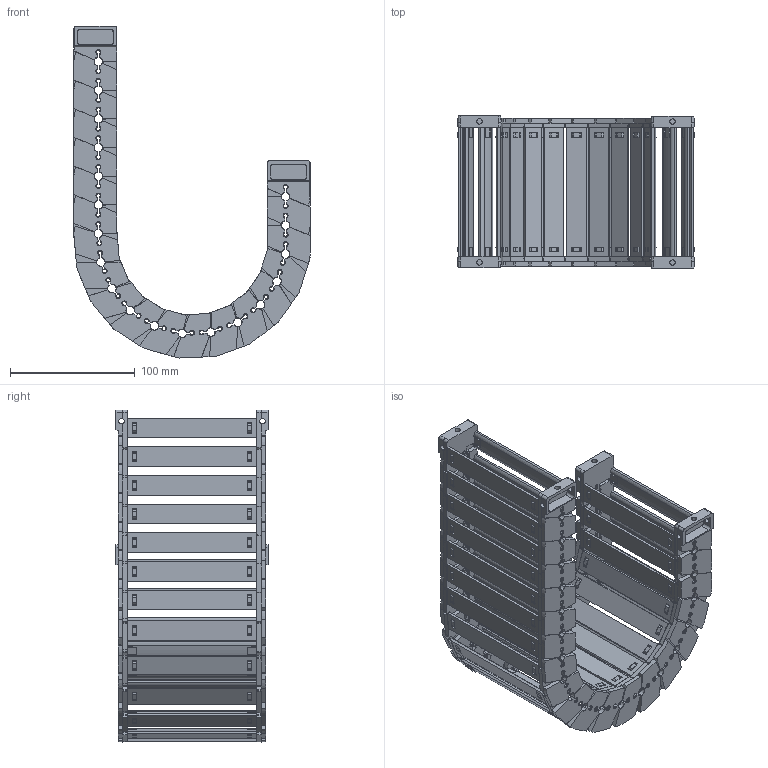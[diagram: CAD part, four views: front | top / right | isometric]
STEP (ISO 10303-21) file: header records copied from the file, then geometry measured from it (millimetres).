
FILE_DESCRIPTION((''),'2;1');
FILE_NAME('JY-28X103-R75_ASM','2026-03-26T08:24:44',('admin'),(''),'CREO PARAMETRIC BY PTC INC, 2021023','CREO PARAMETRIC BY PTC INC, 2021023','');
FILE_SCHEMA(('CONFIG_CONTROL_DESIGN'));
Length unit declared in the file: millimetre
Products named in the file (11): 28XL-L; 25-35XL-YP; 28XL-R; ASM0001_ASM; 28-LTT-A-L; 28-LTT-A-R; 28XL-LTT-A_ASM; 28-LTT-B-L; 28-LTT-B-R; 28XL-LTT-B_ASM; JY-28X103-R75_ASM
Assembly tree (32 placements, depth 3):
  JY-28X103-R75_ASM
    ASM0001_ASM  x18
      28XL-L
      25-35XL-YP
      28XL-R
    28XL-LTT-A_ASM
      28-LTT-A-L
      25-35XL-YP  x2
      28-LTT-A-R
    28XL-LTT-B_ASM
      28-LTT-B-L
      25-35XL-YP  x2
      28-LTT-B-R
Bounding box: 189.55 x 122 x 266.34 mm (x, y, z)
Volume: 414288.9 mm3; surface area: 298579.4 mm2
Topology: 80 solids, 80 shells, 6470 faces, 19228 edges, 12838 vertices
Faces by surface type: plane 4242, cone 1156, cylinder 934, bspline 138
Entity records: 29095 total; most frequent: CARTESIAN_POINT 9490, ORIENTED_EDGE 4352, DIRECTION 3655, EDGE_CURVE 2176, VERTEX_POINT 1454, VECTOR 1365, LINE 1365, AXIS2_PLACEMENT_3D 1145
